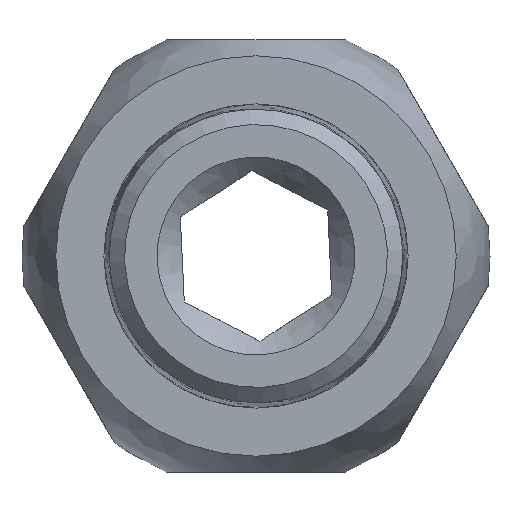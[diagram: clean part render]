
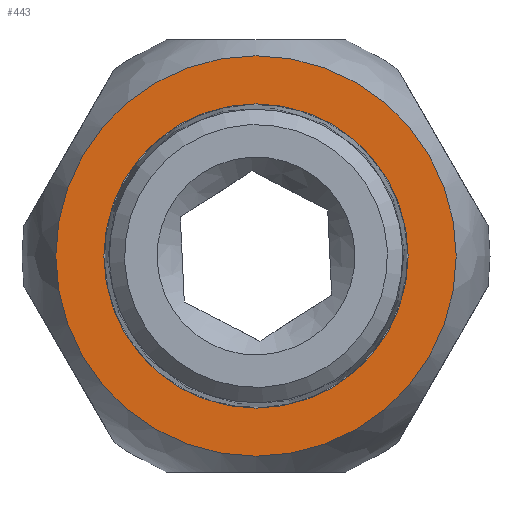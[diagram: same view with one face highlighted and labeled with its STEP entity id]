
A CAD part, left-side view. The second image highlights one B-rep face of the part: STEP entity #443.
In plain terms, the highlighted planar face has unit normal (-1, 0, 0).
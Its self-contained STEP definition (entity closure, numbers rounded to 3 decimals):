
#75=PLANE('',#490);
#95=FACE_BOUND('',#166,.T.);
#119=FACE_OUTER_BOUND('',#165,.T.);
#165=EDGE_LOOP('',(#349,#350));
#166=EDGE_LOOP('',(#351));
#206=CIRCLE('',#484,11.124);
#207=CIRCLE('',#485,11.124);
#209=CIRCLE('',#489,8.45);
#238=VERTEX_POINT('',#1029);
#239=VERTEX_POINT('',#1033);
#241=VERTEX_POINT('',#1040);
#278=EDGE_CURVE('',#238,#239,#206,.T.);
#279=EDGE_CURVE('',#239,#238,#207,.T.);
#281=EDGE_CURVE('',#241,#241,#209,.T.);
#349=ORIENTED_EDGE('',*,*,#279,.F.);
#350=ORIENTED_EDGE('',*,*,#278,.F.);
#351=ORIENTED_EDGE('',*,*,#281,.T.);
#443=ADVANCED_FACE('',(#119,#95),#75,.T.);
#484=AXIS2_PLACEMENT_3D('',#1034,#564,#565);
#485=AXIS2_PLACEMENT_3D('',#1035,#566,#567);
#489=AXIS2_PLACEMENT_3D('',#1041,#574,#575);
#490=AXIS2_PLACEMENT_3D('',#1042,#576,#577);
#564=DIRECTION('center_axis',(1.,0.,0.));
#565=DIRECTION('ref_axis',(0.,1.,0.));
#566=DIRECTION('center_axis',(1.,0.,0.));
#567=DIRECTION('ref_axis',(0.,1.,0.));
#574=DIRECTION('center_axis',(1.,0.,0.));
#575=DIRECTION('ref_axis',(0.,1.,0.));
#576=DIRECTION('center_axis',(-1.,0.,0.));
#577=DIRECTION('ref_axis',(0.,0.,1.));
#1029=CARTESIAN_POINT('',(0.,0.,11.124));
#1033=CARTESIAN_POINT('',(0.,11.124,0.));
#1034=CARTESIAN_POINT('Origin',(0.,0.,0.));
#1035=CARTESIAN_POINT('Origin',(0.,0.,0.));
#1040=CARTESIAN_POINT('',(0.,8.45,0.));
#1041=CARTESIAN_POINT('Origin',(0.,0.,0.));
#1042=CARTESIAN_POINT('Origin',(0.,9.787,
0.));
